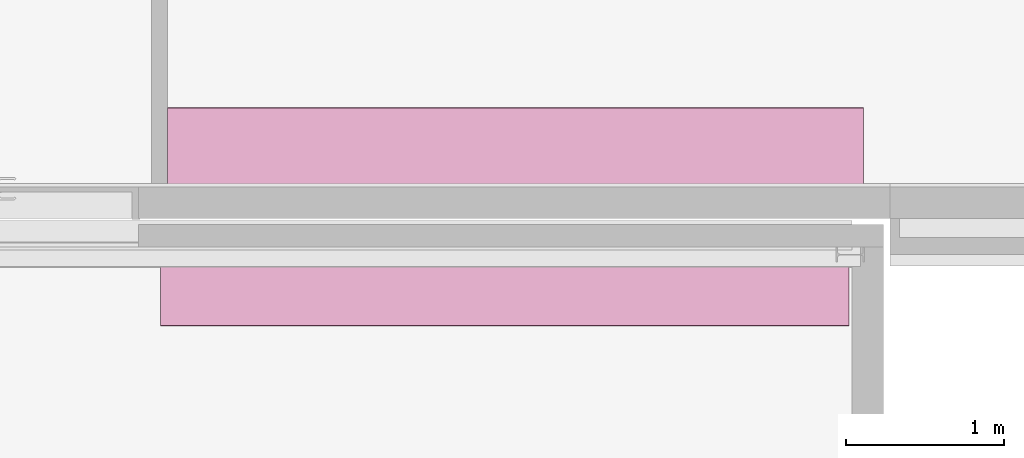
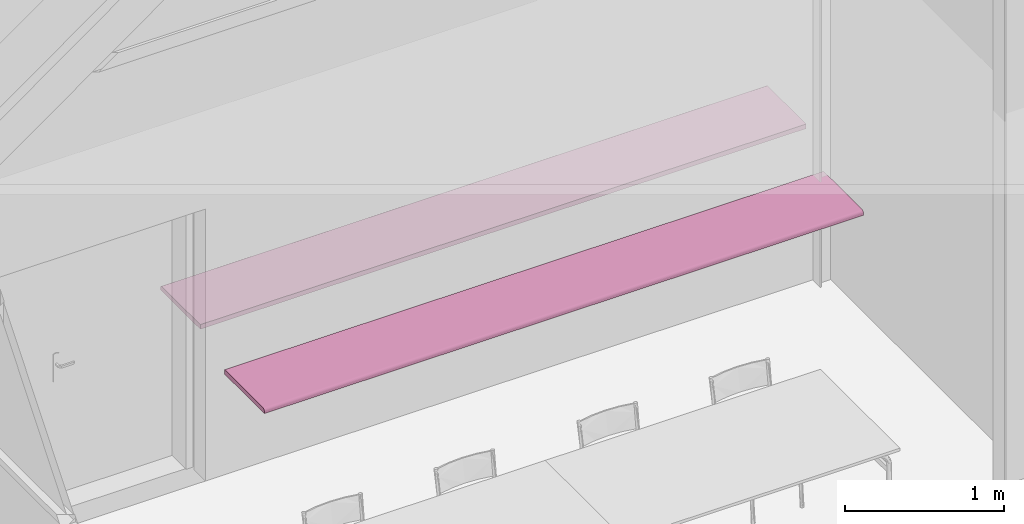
# One storey, part 123 of 137: 2 furnishings.
"""IFC2X3 building model written with IfcOpenShell, lengths in centimetres."""

import ifcopenshell
import ifcopenshell.guid

model = None  # the IFC model being written
_history = None  # IfcOwnerHistory: only IFC2X3 demands one
_inside = {}  # id of a spatial element -> (the spatial element, [elements in it])
_under = {}  # id of a project, library or spatial element -> (it, [spatial elements below it])
_declared = {}  # id of a project -> (the project, [libraries it declares])
_typed = {}  # id of a type object -> (the type object, [elements of that type])
_made_of = {}  # id of a material, layer set ... -> (it, [elements and type objects made of it])


def new_model(schema):
    """Start an empty IFC model of exactly this schema.

    Asked for "IFC4X3", IfcOpenShell would pick the latest addendum, in which some entities
    have other attributes; the version numbers below select the first issue.
    IFC2X3 requires an IfcOwnerHistory on every rooted entity: one is made here for all.
    """
    global model, _history
    if schema == "IFC4X3":
        model = ifcopenshell.file(schema_version=(4, 3, 0, 0))
    else:
        model = ifcopenshell.file(schema=schema)
    _inside.clear()
    _under.clear()
    _declared.clear()
    _typed.clear()
    _made_of.clear()
    _history = None
    if model.schema == "IFC2X3":
        org = make("IfcOrganization", Name="unknown")
        user = make(
            "IfcPersonAndOrganization",
            ThePerson=make("IfcPerson", FamilyName="unknown"),
            TheOrganization=org,
        )
        app = make(
            "IfcApplication",
            ApplicationDeveloper=org,
            Version="unknown",
            ApplicationFullName="unknown",
            ApplicationIdentifier="unknown",
        )
        _history = make(
            "IfcOwnerHistory",
            OwningUser=user,
            OwningApplication=app,
            ChangeAction="ADDED",
            CreationDate=0,
        )
    return model


def make(cls, **values):
    """One entity of the class cls with the attributes given. An attribute that is None is left unset."""
    return model.create_entity(
        cls, **{name: value for name, value in values.items() if value is not None}
    )


def entity(cls, *values):
    """Any entity or typed value of the class cls, its attributes in the order of the schema. None: left unset."""
    e = model.create_entity(cls)
    for i, value in enumerate(values):
        if value is not None:
            e[i] = value
    return e


def rooted(cls, **values):
    """An entity with a GlobalId (a new one), such as an element, a storey or a relation."""
    return make(cls, GlobalId=ifcopenshell.guid.new(), OwnerHistory=_history, **values)


def si_unit(unit_type, name, prefix=None):
    """IfcSIUnit, for example si_unit("LENGTHUNIT", "METRE", prefix="MILLI")."""
    return make("IfcSIUnit", UnitType=unit_type, Prefix=prefix, Name=name)


def converted_unit(unit_type, name, factor, base, dimensions=None, offset=None):
    """IfcConversionBasedUnit, such as the inch: factor (a typed value) times the base unit."""
    return make(
        "IfcConversionBasedUnit"
        if offset is None
        else "IfcConversionBasedUnitWithOffset",
        ConversionOffset=offset,
        Dimensions=None
        if dimensions is None
        else entity("IfcDimensionalExponents", *dimensions),
        UnitType=unit_type,
        Name=name,
        ConversionFactor=make(
            "IfcMeasureWithUnit", ValueComponent=factor, UnitComponent=base
        ),
    )


def derived_unit(unit_type, elements):
    """IfcDerivedUnit: a product of units, each with its exponent."""
    return make(
        "IfcDerivedUnit",
        Elements=[
            make("IfcDerivedUnitElement", Unit=unit, Exponent=power)
            for unit, power in elements
        ],
        UnitType=unit_type,
    )


def assignment(units):
    """IfcUnitAssignment: the units of a project."""
    return None if units is None else make("IfcUnitAssignment", Units=units)


def point(xyz):
    """IfcCartesianPoint."""
    return None if xyz is None else make("IfcCartesianPoint", Coordinates=xyz)


def direction(xyz):
    """IfcDirection."""
    return None if xyz is None else make("IfcDirection", DirectionRatios=xyz)


def frame(location, z_axis=None, x_axis=None):
    """IfcAxis2Placement3D, a coordinate frame: its origin and axes. An axis left out is left unset."""
    return make(
        "IfcAxis2Placement3D",
        Location=point(location),
        Axis=direction(z_axis),
        RefDirection=direction(x_axis),
    )


def frame_2d(location, x_axis=None):
    """IfcAxis2Placement2D, a coordinate frame in the plane: its origin and x axis."""
    return make(
        "IfcAxis2Placement2D", Location=point(location), RefDirection=direction(x_axis)
    )


def origin():
    """The frame at (0, 0, 0) with its axes left unset."""
    return frame((0.0, 0.0, 0.0))


def place(relative_to, where):
    """IfcLocalPlacement: puts the frame where relative to a parent placement (None: the world)."""
    return make(
        "IfcLocalPlacement", PlacementRelTo=relative_to, RelativePlacement=where
    )


def context(
    kind, dimensions, precision=None, world=None, true_north=None, identifier=None
):
    """IfcGeometricRepresentationContext, for example the 3D "Model" context."""
    return make(
        "IfcGeometricRepresentationContext",
        ContextIdentifier=identifier,
        ContextType=kind,
        CoordinateSpaceDimension=dimensions,
        Precision=precision,
        WorldCoordinateSystem=world,
        TrueNorth=true_north,
    )


def subcontext(parent, identifier, kind, view, scale=None):
    """IfcGeometricRepresentationSubContext, for example "Body" below "Model"."""
    return make(
        "IfcGeometricRepresentationSubContext",
        ContextIdentifier=identifier,
        ContextType=kind,
        ParentContext=parent,
        TargetScale=scale,
        TargetView=view,
    )


def project(units=None, contexts=None):
    """IfcProject with its units and contexts."""
    return rooted(
        "IfcProject",
        Name="project",
        RepresentationContexts=contexts,
        UnitsInContext=assignment(units),
    )


def spatial(cls, under=None, at=None, **own):
    """A site, building, storey or space (cls), placed at a placement, below another one or the project."""
    s = rooted(cls, ObjectPlacement=at, **own)
    if under is not None:
        _under.setdefault(under.id(), (under, []))[1].append(s)
    return s


def polyline(points):
    """IfcPolyline through the points."""
    return make("IfcPolyline", Points=[point(p) for p in points])


def circle_curve(where, radius):
    """IfcCircle in the frame where."""
    return make("IfcCircle", Position=where, Radius=radius)


def parameter(value):
    """IfcParameterValue: where a trimmed curve begins or ends, as a parameter of its basis curve."""
    return model.create_entity("IfcParameterValue", value)


def trimmed(basis, trim1, trim2, sense, master):
    """IfcTrimmedCurve: the piece of a basis curve between two trims."""
    return make(
        "IfcTrimmedCurve",
        BasisCurve=basis,
        Trim1=trim1,
        Trim2=trim2,
        SenseAgreement=sense,
        MasterRepresentation=master,
    )


def segment(curve, same_sense, transition):
    """IfcCompositeCurveSegment."""
    return make(
        "IfcCompositeCurveSegment",
        Transition=transition,
        SameSense=same_sense,
        ParentCurve=curve,
    )


def composite_curve(segments, self_intersect=None):
    """IfcCompositeCurve: segments joined end to end."""
    return make("IfcCompositeCurve", Segments=segments, SelfIntersect=self_intersect)


def outline(outer, holes=None, kind="AREA"):
    """IfcArbitraryClosedProfileDef: a profile drawn as a closed curve; with holes, ...WithVoids."""
    if holes is None:
        return make("IfcArbitraryClosedProfileDef", ProfileType=kind, OuterCurve=outer)
    return make(
        "IfcArbitraryProfileDefWithVoids",
        ProfileType=kind,
        OuterCurve=outer,
        InnerCurves=holes,
    )


def extrude(swept, where, along, depth):
    """IfcExtrudedAreaSolid: the profile swept, set in the frame where, extruded along a direction by depth."""
    return make(
        "IfcExtrudedAreaSolid",
        SweptArea=swept,
        Position=where,
        ExtrudedDirection=direction(along),
        Depth=depth,
    )


def shape(context_of_items, identifier, shape_type, items):
    """IfcShapeRepresentation: the items that make up one representation, for example the "Body"."""
    return make(
        "IfcShapeRepresentation",
        ContextOfItems=context_of_items,
        RepresentationIdentifier=identifier,
        RepresentationType=shape_type,
        Items=items,
    )


def source(mapping_origin, context_of_items, identifier, shape_type, items):
    """IfcRepresentationMap: a shape defined once, which mapped items show again and again."""
    return make(
        "IfcRepresentationMap",
        MappingOrigin=mapping_origin,
        MappedRepresentation=shape(context_of_items, identifier, shape_type, items),
    )


def transform(
    local_origin,
    x_axis=None,
    y_axis=None,
    z_axis=None,
    scale=None,
    scale2=None,
    scale3=None,
    uniform=True,
):
    """IfcCartesianTransformationOperator3D, or its non-uniform kind. x_axis, y_axis, z_axis: its Axis1, 2, 3."""
    if uniform:
        return make(
            "IfcCartesianTransformationOperator3D",
            Axis1=direction(x_axis),
            Axis2=direction(y_axis),
            LocalOrigin=point(local_origin),
            Scale=scale,
            Axis3=direction(z_axis),
        )
    return make(
        "IfcCartesianTransformationOperator3DnonUniform",
        Axis1=direction(x_axis),
        Axis2=direction(y_axis),
        LocalOrigin=point(local_origin),
        Scale=scale,
        Axis3=direction(z_axis),
        Scale2=scale2,
        Scale3=scale3,
    )


def mapped(mapping_source, mapping_target):
    """IfcMappedItem: shows the shape of a source again, moved by a transform."""
    return make(
        "IfcMappedItem", MappingSource=mapping_source, MappingTarget=mapping_target
    )


def material(Name=None, Category=None):
    """IfcMaterial."""
    return make("IfcMaterial", Name=Name, Category=Category)


def made_of(thing, what):
    """Note that an element or type object is made of a material, layer set ...; save() writes the relation."""
    if what is not None:
        _made_of.setdefault(what.id(), (what, []))[1].append(thing)
    return thing


def type_object(cls, material=None, **own):
    """A type object (cls), such as IfcWallType, which elements share."""
    return made_of(rooted(cls, **own), material)


def type_shapes(of_type, sources):
    """Give a type object the sources (RepresentationMaps) that its elements show as mapped items."""
    of_type.RepresentationMaps = sources


def element(
    cls,
    number,
    at=None,
    inside=None,
    cuts=None,
    type_object=None,
    material=None,
    context=None,
    identifier="Body",
    shape_type=None,
    held_by="IfcProductDefinitionShape",
    body=None,
    shapes=None,
    **own,
):
    """One element of the class cls, such as IfcWall. Its Tag is "e" and its number.

    at: its placement. inside: the storey or other place that contains it. cuts: it is an
    opening in that element (IfcRelVoidsElement). A single representation is given by context,
    identifier, shape_type and body (its items); several are given by shapes. held_by: the class
    of the entity that holds the representations. save() writes the other relations.
    """
    e = rooted(cls, Tag="e%d" % number, ObjectPlacement=at, **own)
    if body is not None:
        shapes = [shape(context, identifier, shape_type, body)]
    if shapes is not None:
        e.Representation = make(held_by, Representations=shapes)
    if inside is not None:
        _inside.setdefault(inside.id(), (inside, []))[1].append(e)
    if cuts is not None:
        rooted(
            "IfcRelVoidsElement", RelatingBuildingElement=cuts, RelatedOpeningElement=e
        )
    if type_object is not None:
        _typed.setdefault(type_object.id(), (type_object, []))[1].append(e)
    return made_of(e, material)


def aggregate(whole, parts):
    """IfcRelAggregates: a whole, such as a stair, and the parts it consists of."""
    return rooted("IfcRelAggregates", RelatingObject=whole, RelatedObjects=parts)


def save(model, path):
    """Write the relations noted so far, then the file.

    IfcRelAggregates (storeys below a building ...), IfcRelContainedInSpatialStructure (elements
    in a storey), IfcRelDefinesByType, IfcRelAssociatesMaterial and IfcRelDeclares: one each for
    every whole, place, type object, material and project.
    """
    for whole, parts in _under.values():
        aggregate(whole, parts)
    for where, things in _inside.values():
        rooted(
            "IfcRelContainedInSpatialStructure",
            RelatedElements=things,
            RelatingStructure=where,
        )
    for kind, things in _typed.values():
        rooted("IfcRelDefinesByType", RelatedObjects=things, RelatingType=kind)
    for what, things in _made_of.values():
        rooted("IfcRelAssociatesMaterial", RelatedObjects=things, RelatingMaterial=what)
    for by, libraries in _declared.values():
        rooted("IfcRelDeclares", RelatingContext=by, RelatedDefinitions=libraries)
    model.write(path)


model = new_model("IFC2X3")

# Units and contexts
model_context = context("Model", 3, precision=0.001, world=origin(), true_north=direction((6.12303176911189e-17, 1.0)))
body_context = subcontext(model_context, "Body", "Model", "MODEL_VIEW")
ifc_project = project(units=[si_unit("LENGTHUNIT", "METRE", prefix="CENTI"), si_unit("AREAUNIT", "SQUARE_METRE"), si_unit("VOLUMEUNIT", "CUBIC_METRE"), converted_unit("PLANEANGLEUNIT", "DEGREE", entity("IfcRatioMeasure", 0.0174532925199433), si_unit("PLANEANGLEUNIT", "RADIAN"), dimensions=[0, 0, 0, 0, 0, 0, 0]), si_unit("MASSUNIT", "GRAM", prefix="KILO"), si_unit("TIMEUNIT", "SECOND"), si_unit("FREQUENCYUNIT", "HERTZ"), si_unit("THERMODYNAMICTEMPERATUREUNIT", "DEGREE_CELSIUS"), derived_unit("THERMALTRANSMITTANCEUNIT", [(si_unit("MASSUNIT", "GRAM", prefix="KILO"), 1), (si_unit("THERMODYNAMICTEMPERATUREUNIT", "KELVIN"), -1), (si_unit("TIMEUNIT", "SECOND"), -3)]), derived_unit("VOLUMETRICFLOWRATEUNIT", [(si_unit("LENGTHUNIT", "METRE"), 3), (si_unit("TIMEUNIT", "SECOND"), -1)]), si_unit("ELECTRICCURRENTUNIT", "AMPERE"), si_unit("ELECTRICVOLTAGEUNIT", "VOLT"), si_unit("POWERUNIT", "WATT"), si_unit("FORCEUNIT", "NEWTON", prefix="KILO"), si_unit("ILLUMINANCEUNIT", "LUX"), si_unit("LUMINOUSFLUXUNIT", "LUMEN"), si_unit("LUMINOUSINTENSITYUNIT", "CANDELA"), derived_unit("USERDEFINED", [(si_unit("MASSUNIT", "GRAM", prefix="KILO"), -1), (si_unit("LENGTHUNIT", "METRE"), -2), (si_unit("TIMEUNIT", "SECOND"), 3), (si_unit("LUMINOUSFLUXUNIT", "LUMEN"), 1)]), derived_unit("LINEARVELOCITYUNIT", [(si_unit("LENGTHUNIT", "METRE"), 1), (si_unit("TIMEUNIT", "SECOND"), -1)]), si_unit("PRESSUREUNIT", "PASCAL"), derived_unit("USERDEFINED", [(si_unit("LENGTHUNIT", "METRE"), -2), (si_unit("MASSUNIT", "GRAM", prefix="KILO"), 1), (si_unit("TIMEUNIT", "SECOND"), -2)])], contexts=[model_context])

# Site, building, storey, space
site_placement = place(None, frame((8.62739174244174, -249.285249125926, 0.0)))
site = spatial("IfcSite", under=ifc_project, at=site_placement, Name="Default", CompositionType="ELEMENT")
building_placement = place(site_placement, origin())
building = spatial("IfcBuilding", under=site, at=building_placement, CompositionType="ELEMENT")
storey_placement = place(building_placement, origin())
storey = spatial("IfcBuildingStorey", under=building, at=storey_placement, Name="RDC", CompositionType="ELEMENT", Elevation=-8.82465566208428e-11)
space_1_placement = place(storey_placement, origin())
space_1 = spatial("IfcSpace", under=storey, at=space_1_placement, Name="047", CompositionType="ELEMENT", InteriorOrExteriorSpace="INTERNAL")

# Furnishing
ifc_material = material(Name="Bois - Mélaminé jaune pastel")
furniture_type_1 = type_object("IfcFurnitureType", Name="Avec réservation pour évier", AssemblyPlace="NOTDEFINED", material=ifc_material)
shared_shape_1 = source(origin(), body_context, "Body", "SweptSolid", [
    extrude(outline(composite_curve([segment(polyline([(-1.91284418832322, -14.8411140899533), (-0.772934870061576, -14.8411140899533)]), True, "CONTINUOUS"), segment(polyline([(-0.772934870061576, -14.8411140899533), (-0.162844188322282, -14.8411140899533)]), True, "CONTINUOUS"), segment(trimmed(circle_curve(frame_2d((-0.162844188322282, -13.0911140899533), x_axis=(0.0, -1.0)), 1.75), [parameter(4.57999874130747e-13)], [parameter(90.0000000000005)], True, "PARAMETER"), True, "CONTINUOUS"), segment(polyline([(1.58715581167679, -13.0911140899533), (1.58715581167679, -12.7033154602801)]), True, "CONTINUOUS"), segment(polyline([(1.58715581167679, -12.7033154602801), (1.58715581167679, 35.1588859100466)]), True, "CONTINUOUS"), segment(polyline([(1.58715581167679, 35.1588859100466), (-1.91284418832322, 35.1588859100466)]), True, "CONTINUOUS"), segment(polyline([(-1.91284418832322, 35.1588859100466), (-1.91284418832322, -14.8411140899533)]), True, "CONTINUOUS")], self_intersect=False)), frame((-205.204703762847, 42.1588859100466, 89.1128441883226), z_axis=(1.0, 0.0, 0.0), x_axis=(0.0, 0.0, 1.0)), (0.0, 0.0, 1.0), 435.409407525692),
])
type_shapes(furniture_type_1, [shared_shape_1])
furnishing_1_placement = place(space_1_placement, frame((3455.70012404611, 2623.98020806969, -10.0), z_axis=(0.0, 0.0, 1.0), x_axis=(-1.0, 0.0, 0.0)))
element("IfcFurnishingElement", 1, at=furnishing_1_placement, inside=space_1, type_object=furniture_type_1, material=ifc_material, Name="PTD:Avec réservation pour évier", ObjectType="Avec réservation pour évier", context=body_context, shape_type="MappedRepresentation", body=[
    mapped(shared_shape_1, transform((0.0, 0.0, 0.0), scale=1.0)),
])

# Space
space_2_placement = place(storey_placement, origin())
space_2 = spatial("IfcSpace", under=storey, at=space_2_placement, Name="048", CompositionType="ELEMENT", InteriorOrExteriorSpace="INTERNAL")

# Furnishing
furniture_type_2 = type_object("IfcFurnitureType", Name="Sans réservation pour évier", AssemblyPlace="NOTDEFINED", material=ifc_material)
shared_shape_2 = source(origin(), body_context, "Body", "SweptSolid", [
    extrude(outline(composite_curve([segment(polyline([(-1.91284418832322, -14.8411140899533), (-0.772934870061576, -14.8411140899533)]), True, "CONTINUOUS"), segment(polyline([(-0.772934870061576, -14.8411140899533), (-0.162844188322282, -14.8411140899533)]), True, "CONTINUOUS"), segment(trimmed(circle_curve(frame_2d((-0.162844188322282, -13.0911140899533), x_axis=(0.0, -1.0)), 1.75), [parameter(4.57999874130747e-13)], [parameter(90.0000000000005)], True, "PARAMETER"), True, "CONTINUOUS"), segment(polyline([(1.58715581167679, -13.0911140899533), (1.58715581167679, -12.7033154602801)]), True, "CONTINUOUS"), segment(polyline([(1.58715581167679, -12.7033154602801), (1.58715581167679, 35.1588859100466)]), True, "CONTINUOUS"), segment(polyline([(1.58715581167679, 35.1588859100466), (-1.91284418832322, 35.1588859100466)]), True, "CONTINUOUS"), segment(polyline([(-1.91284418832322, 35.1588859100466), (-1.91284418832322, -14.8411140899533)]), True, "CONTINUOUS")], self_intersect=False)), frame((-207.691994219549, 45.1588859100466, 89.1128441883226), z_axis=(1.0, 0.0, 0.0), x_axis=(0.0, 0.0, 1.0)), (0.0, 0.0, 1.0), 440.383988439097),
])
type_shapes(furniture_type_2, [shared_shape_2])
furnishing_2_placement = place(space_2_placement, frame((3437.42841004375, 2644.98020806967, 0.0)))
element("IfcFurnishingElement", 2, at=furnishing_2_placement, inside=space_2, type_object=furniture_type_2, material=ifc_material, Name="PTD:Sans réservation pour évier", ObjectType="Sans réservation pour évier", context=body_context, shape_type="MappedRepresentation", body=[
    mapped(shared_shape_2, transform((0.0, 0.0, 0.0), scale=1.0)),
])

save(model, "model.ifc")
